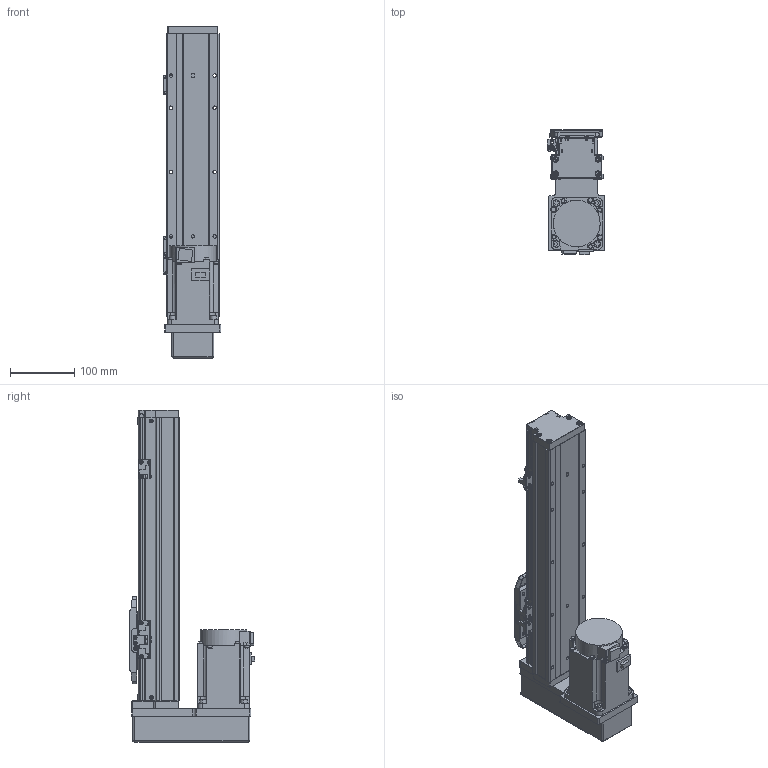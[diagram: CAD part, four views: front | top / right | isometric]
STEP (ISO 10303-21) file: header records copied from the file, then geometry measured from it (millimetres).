
FILE_DESCRIPTION (( 'STEP AP203' ), '1' );
FILE_NAME ('GTH8-250-BM-M75-C4.step', '2023-02-14T02:27:53', ( '微软用户' ), ( '微软中国' ), 'SwSTEP 2.0', 'SolidWorks 2020', '' );
FILE_SCHEMA (( 'CONFIG_CONTROL_DESIGN' ));
Length unit declared in the file: millimetre
Products named in the file (18): GTH80-004; GTH50-023; GTH80-028; GTH80-006; GBT96.1-2002 3×0.8; GTH50-024; GTH80-013; BTH-M3X5X6; GBT 70.3-M3℅6; CTHA86-015-3_CTHA86-015-4; GTH80-022; CTHA86-035; GTH80-001_250; GBT 70.1-M3℅6; hg-kn73j_-s100; GTH80-003; GBT 70.1-M4×16; GTH8-250-BM-M75-C4
Assembly tree (57 placements, depth 2):
  GTH8-250-BM-M75-C4
    GTH80-001_250
    GTH80-003
    GTH80-004
    GTH80-006
    GTH80-013
    GBT 70.3-M3℅6  x4
    GTH80-022
    GBT 70.1-M3℅6  x14
    GBT 70.1-M4×16  x8
    GTH80-028  x2
    GTH50-024  x3
    GTH50-023  x3
    GBT96.1-2002 3×0.8  x6
    BTH-M3X5X6  x8
    CTHA86-015-3_CTHA86-015-4
    CTHA86-035
    hg-kn73j_-s100
Bounding box: 89.4 x 195.3 x 516 mm (x, y, z)
Volume: 3452714.5 mm3; surface area: 388720.5 mm2
Topology: 59 solids, 59 shells, 2183 faces, 5058 edges, 3096 vertices
Faces by surface type: plane 1153, cylinder 615, cone 243, torus 158, sphere 12, bspline 2
Entity records: 39144 total; most frequent: CARTESIAN_POINT 6575, DIRECTION 6445, ORIENTED_EDGE 5926, EDGE_CURVE 2963, AXIS2_PLACEMENT_3D 2266, LINE 1913, VECTOR 1913, VERTEX_POINT 1871
